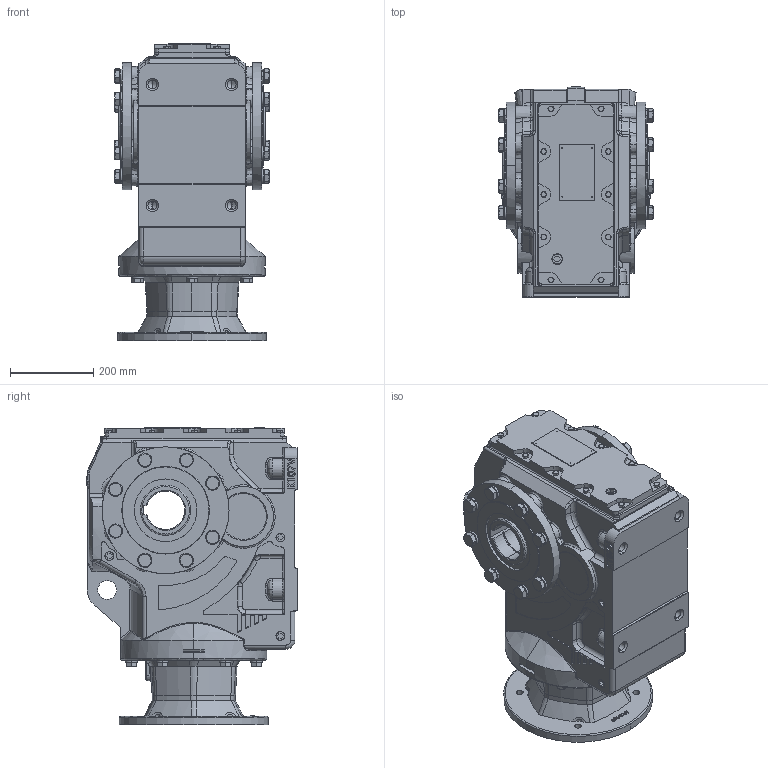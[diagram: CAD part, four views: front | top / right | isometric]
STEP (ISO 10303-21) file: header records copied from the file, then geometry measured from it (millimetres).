
FILE_DESCRIPTION (( 'STEP AP203' ), '1' );
FILE_NAME ('KAN107-324T.STEP', '2023-02-15T07:25:17', ( '' ), ( '' ), 'SwSTEP 2.0', 'SolidWorks 2012', '' );
FILE_SCHEMA (( 'CONFIG_CONTROL_DESIGN' ));
Products named in the file (1): KAN107-324T
Bounding box: 369.2 x 503.5 x 713 mm (x, y, z)
Volume: 69954485.3 mm3; surface area: 1859928.3 mm2
Topology: 1 solids, 59 shells, 2771 faces, 6883 edges, 4274 vertices
Faces by surface type: plane 1104, cylinder 745, bspline 461, cone 461
Entity records: 106912 total; most frequent: CARTESIAN_POINT 43693, ORIENTED_EDGE 13620, DIRECTION 12646, EDGE_CURVE 6810, AXIS2_PLACEMENT_3D 4787, VERTEX_POINT 4274, LINE 3072, VECTOR 3072
